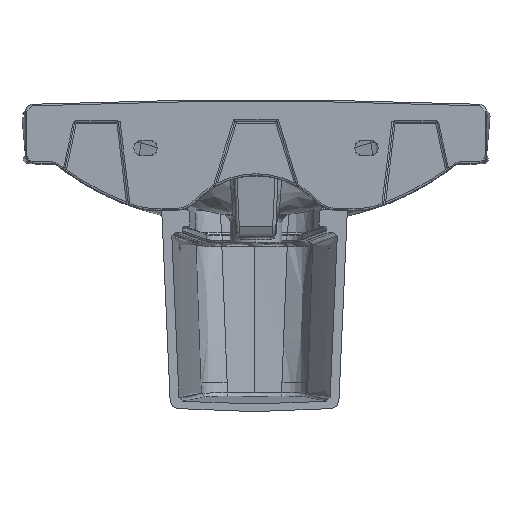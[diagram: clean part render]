
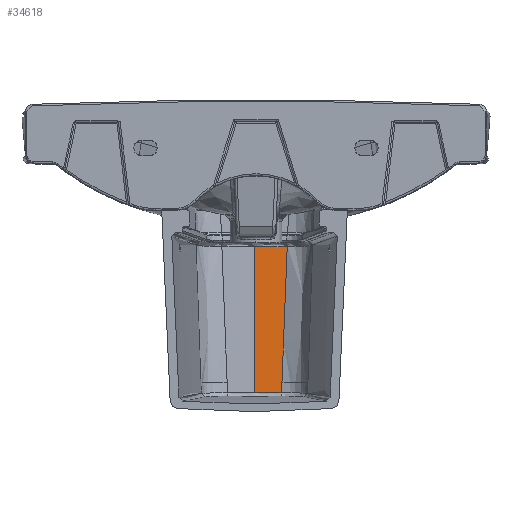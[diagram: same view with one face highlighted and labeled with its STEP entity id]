
A CAD part, top view. The second image highlights one B-rep face of the part: STEP entity #34618.
In plain terms, the highlighted free-form (B-spline) face has degree [1, 3] with [5, 7] control points.
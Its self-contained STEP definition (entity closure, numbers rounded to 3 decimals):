
#42 = VERTEX_POINT ( 'NONE', #46855 ) ;
#1252 = CARTESIAN_POINT ( 'NONE',  ( -81.489, 34.313, -6.444 ) ) ;
#2137 = CARTESIAN_POINT ( 'NONE',  ( -86.906, -105.45, 3.724 ) ) ;
#3769 = ORIENTED_EDGE ( 'NONE', *, *, #18600, .T. ) ;
#6049 = CARTESIAN_POINT ( 'NONE',  ( -123.666, -150.381, 628.788 ) ) ;
#7451 = CARTESIAN_POINT ( 'NONE',  ( -81.489, 34.313, -6.444 ) ) ;
#9210 = CARTESIAN_POINT ( 'NONE',  ( -86.205, -87.496, 2.415 ) ) ;
#11426 = EDGE_CURVE ( 'NONE', #87539, #19438, #66110, .T. ) ;
#12395 = CARTESIAN_POINT ( 'NONE',  ( -123.666, -117.444, 628.788 ) ) ;
#12918 = FACE_OUTER_BOUND ( 'NONE', #83662, .T. ) ;
#14442 = CARTESIAN_POINT ( 'NONE',  ( -123.666, 96.618, -13.807 ) ) ;
#15511 = CARTESIAN_POINT ( 'NONE',  ( -84.649, -47.36, -0.512 ) ) ;
#16525 = ORIENTED_EDGE ( 'NONE', *, *, #83683, .T. ) ;
#18144 = CARTESIAN_POINT ( 'NONE',  ( -123.666, -154.715, 5.532 ) ) ;
#18600 = EDGE_CURVE ( 'NONE', #42, #87539, #75942, .T. ) ;
#18686 = CARTESIAN_POINT ( 'NONE',  ( -97.808, -154.681, 6.506 ) ) ;
#19438 = VERTEX_POINT ( 'NONE', #21116 ) ;
#20249 = CARTESIAN_POINT ( 'NONE',  ( 548.341, 121.304, 628.788 ) ) ;
#20771 = CARTESIAN_POINT ( 'NONE',  ( -123.666, -117.444, 628.788 ) ) ;
#21116 = CARTESIAN_POINT ( 'NONE',  ( -88.809, -154.654, 7.321 ) ) ;
#21288 = CARTESIAN_POINT ( 'NONE',  ( 526.543, -174.266, 7.037 ) ) ;
#21964 = VERTEX_POINT ( 'NONE', #82292 ) ;
#22305 = CARTESIAN_POINT ( 'NONE',  ( -795.114, 89.685, -13.273 ) ) ;
#26041 = CARTESIAN_POINT ( 'NONE',  ( -109.296, -154.706, 5.785 ) ) ;
#27594 = CARTESIAN_POINT ( 'NONE',  ( -100.504, -154.688, 6.308 ) ) ;
#29163 = CARTESIAN_POINT ( 'NONE',  ( -123.666, 82.886, -12.75 ) ) ;
#29665 = CARTESIAN_POINT ( 'NONE',  ( -773.875, -174.266, 7.037 ) ) ;
#30177 = CARTESIAN_POINT ( 'NONE',  ( -776.517, -117.444, 628.788 ) ) ;
#34618 = ADVANCED_FACE ( 'NONE', ( #12918 ), #53801, .F. ) ;
#35598 = ORIENTED_EDGE ( 'NONE', *, *, #46739, .T. ) ;
#36503 = CARTESIAN_POINT ( 'NONE',  ( -123.666, -141.427, 4.51 ) ) ;
#37372 = VERTEX_POINT ( 'NONE', #1252 ) ;
#37528 = CARTESIAN_POINT ( 'NONE',  ( 529.186, -141.427, 4.51 ) ) ;
#38271 = B_SPLINE_CURVE_WITH_KNOTS ( 'NONE', 3,
 ( #52143, #99751, #65779, #51630 ),
 .UNSPECIFIED., .F., .F.,
 ( 4, 4 ),
 ( 0., 1. ),
 .UNSPECIFIED. ) ;
#38393 = CARTESIAN_POINT ( 'NONE',  ( -109.616, 34.199, -8.791 ) ) ;
#39425 = CARTESIAN_POINT ( 'NONE',  ( -116.659, 34.189, -9.003 ) ) ;
#42232 = CARTESIAN_POINT ( 'NONE',  ( -123.666, -141.427, 4.51 ) ) ;
#44339 = CARTESIAN_POINT ( 'NONE',  ( -92.922, -154.667, 6.914 ) ) ;
#44353 = CARTESIAN_POINT ( 'NONE',  ( -794.567, 107.531, 628.788 ) ) ;
#45886 = CARTESIAN_POINT ( 'NONE',  ( -795.672, 96.618, -13.807 ) ) ;
#46399 = CARTESIAN_POINT ( 'NONE',  ( 529.186, -117.444, 628.788 ) ) ;
#46739 = EDGE_CURVE ( 'NONE', #37372, #42, #69658, .T. ) ;
#46855 = CARTESIAN_POINT ( 'NONE',  ( -123.666, 34.189, -9.003 ) ) ;
#47136 = CARTESIAN_POINT ( 'NONE',  ( -123.666, -154.715, 5.532 ) ) ;
#47285 = CARTESIAN_POINT ( 'NONE',  ( -95.532, 34.241, -7.939 ) ) ;
#50858 = CARTESIAN_POINT ( 'NONE',  ( -86.205, -87.496, 2.415 ) ) ;
#51630 = CARTESIAN_POINT ( 'NONE',  ( -88.294, -141.356, 6.348 ) ) ;
#52143 = CARTESIAN_POINT ( 'NONE',  ( -88.809, -154.654, 7.321 ) ) ;
#52213 = CARTESIAN_POINT ( 'NONE',  ( -123.666, 114.35, 628.788 ) ) ;
#52735 = CARTESIAN_POINT ( 'NONE',  ( 548.341, 96.618, -13.807 ) ) ;
#53253 = CARTESIAN_POINT ( 'NONE',  ( 547.236, 82.886, -12.75 ) ) ;
#53755 = CARTESIAN_POINT ( 'NONE',  ( -123.666, 114.35, 628.788 ) ) ;
#53801 =( BOUNDED_SURFACE ( )  B_SPLINE_SURFACE ( 1, 3, ( 
 ( #77813, #20249, #52735, #14442, #45886, #68957, #93519 ),
 ( #53755, #101885, #60074, #100864, #22305, #69966, #52213 ),
 ( #67920, #84126, #53253, #29163, #93011, #44353, #62119 ),
 ( #12395, #46399, #37528, #36503, #92501, #30177, #20771 ),
 ( #6049, #69466, #21288, #101374, #29665, #76290, #68441 ) ),
 .UNSPECIFIED., .F., .T., .T. ) 
 B_SPLINE_SURFACE_WITH_KNOTS ( ( 2, 1, 1, 1, 2 ),
 ( 4, 3, 4 ),
 ( -0.061, -0.03, 0., 1., 1.146 ),
 ( 0., 0.5, 1. ),
 .UNSPECIFIED. ) 
 GEOMETRIC_REPRESENTATION_ITEM ( )  RATIONAL_B_SPLINE_SURFACE ( (
 ( 1., 0.333, 0.333, 1., 0.333, 0.333, 1.),
 ( 1., 0.333, 0.333, 1., 0.333, 0.333, 1.),
 ( 1., 0.333, 0.333, 1., 0.333, 0.333, 1.),
 ( 1., 0.333, 0.333, 1., 0.333, 0.333, 1.),
 ( 1., 0.333, 0.333, 1., 0.333, 0.333, 1.) ) ) 
 REPRESENTATION_ITEM ( '' )  SURFACE ( )  );
#55148 = CARTESIAN_POINT ( 'NONE',  ( -123.666, 34.189, -9.003 ) ) ;
#55338 = CARTESIAN_POINT ( 'NONE',  ( -81.489, 34.313, -6.444 ) ) ;
#60074 = CARTESIAN_POINT ( 'NONE',  ( 547.783, 89.685, -13.273 ) ) ;
#62119 = CARTESIAN_POINT ( 'NONE',  ( -123.666, 107.531, 628.788 ) ) ;
#64542 = CARTESIAN_POINT ( 'NONE',  ( -88.491, 34.272, -7.297 ) ) ;
#65779 = CARTESIAN_POINT ( 'NONE',  ( -88.5, -146.706, 6.739 ) ) ;
#65805 = CARTESIAN_POINT ( 'NONE',  ( -123.666, 34.189, -9.003 ) ) ;
#66110 = B_SPLINE_CURVE_WITH_KNOTS ( 'NONE', 3,
 ( #95660, #91454, #26041, #27594, #18686, #44339, #98265, #91966 ),
 .UNSPECIFIED., .F., .F.,
 ( 4, 2, 2, 4 ),
 ( 0., 0.5, 0.75, 1. ),
 .UNSPECIFIED. ) ;
#67920 = CARTESIAN_POINT ( 'NONE',  ( -123.666, 107.531, 628.788 ) ) ;
#68353 = B_SPLINE_CURVE_WITH_KNOTS ( 'NONE', 3,
 ( #9210, #15511, #72072, #55338 ),
 .UNSPECIFIED., .F., .F.,
 ( 4, 4 ),
 ( 0., 1. ),
 .UNSPECIFIED. ) ;
#68441 = CARTESIAN_POINT ( 'NONE',  ( -123.666, -150.381, 628.788 ) ) ;
#68957 = CARTESIAN_POINT ( 'NONE',  ( -795.672, 121.304, 628.788 ) ) ;
#69466 = CARTESIAN_POINT ( 'NONE',  ( 526.543, -150.381, 628.788 ) ) ;
#69658 = B_SPLINE_CURVE_WITH_KNOTS ( 'NONE', 3,
 ( #7451, #64542, #47285, #38393, #39425, #55148 ),
 .UNSPECIFIED., .F., .F.,
 ( 4, 2, 4 ),
 ( 0., 0.5, 1. ),
 .UNSPECIFIED. ) ;
#69966 = CARTESIAN_POINT ( 'NONE',  ( -795.114, 114.35, 628.788 ) ) ;
#70328 = B_SPLINE_CURVE_WITH_KNOTS ( 'NONE', 3,
 ( #96922, #98990, #2137, #50858 ),
 .UNSPECIFIED., .F., .F.,
 ( 4, 4 ),
 ( 0., 1. ),
 .UNSPECIFIED. ) ;
#72072 = CARTESIAN_POINT ( 'NONE',  ( -83.077, -6.757, -3.466 ) ) ;
#73418 = EDGE_CURVE ( 'NONE', #21964, #37372, #68353, .T. ) ;
#73578 = EDGE_CURVE ( 'NONE', #19438, #100700, #38271, .T. ) ;
#75942 = B_SPLINE_CURVE_WITH_KNOTS ( 'NONE', 1,
 ( #65805, #42232, #18144 ),
 .UNSPECIFIED., .F., .F.,
 ( 2, 1, 2 ),
 ( 0.217, 1., 1.059 ),
 .UNSPECIFIED. ) ;
#76290 = CARTESIAN_POINT ( 'NONE',  ( -773.875, -150.381, 628.788 ) ) ;
#77813 = CARTESIAN_POINT ( 'NONE',  ( -123.666, 121.304, 628.788 ) ) ;
#82292 = CARTESIAN_POINT ( 'NONE',  ( -86.205, -87.496, 2.415 ) ) ;
#82713 = ORIENTED_EDGE ( 'NONE', *, *, #73578, .T. ) ;
#83662 = EDGE_LOOP ( 'NONE', ( #35598, #3769, #97379, #82713, #16525, #85372 ) ) ;
#83683 = EDGE_CURVE ( 'NONE', #100700, #21964, #70328, .T. ) ;
#84126 = CARTESIAN_POINT ( 'NONE',  ( 547.236, 107.531, 628.788 ) ) ;
#85372 = ORIENTED_EDGE ( 'NONE', *, *, #73418, .T. ) ;
#87539 = VERTEX_POINT ( 'NONE', #47136 ) ;
#91454 = CARTESIAN_POINT ( 'NONE',  ( -116.102, -154.715, 5.532 ) ) ;
#91966 = CARTESIAN_POINT ( 'NONE',  ( -88.809, -154.654, 7.321 ) ) ;
#92501 = CARTESIAN_POINT ( 'NONE',  ( -776.517, -141.427, 4.51 ) ) ;
#93011 = CARTESIAN_POINT ( 'NONE',  ( -794.567, 82.886, -12.75 ) ) ;
#93519 = CARTESIAN_POINT ( 'NONE',  ( -123.666, 121.304, 628.788 ) ) ;
#94429 = CARTESIAN_POINT ( 'NONE',  ( -88.294, -141.356, 6.348 ) ) ;
#95660 = CARTESIAN_POINT ( 'NONE',  ( -123.666, -154.715, 5.532 ) ) ;
#96922 = CARTESIAN_POINT ( 'NONE',  ( -88.294, -141.356, 6.348 ) ) ;
#97379 = ORIENTED_EDGE ( 'NONE', *, *, #11426, .T. ) ;
#98265 = CARTESIAN_POINT ( 'NONE',  ( -90.732, -154.661, 7.123 ) ) ;
#98990 = CARTESIAN_POINT ( 'NONE',  ( -87.603, -123.403, 5.035 ) ) ;
#99751 = CARTESIAN_POINT ( 'NONE',  ( -88.672, -151.139, 7.063 ) ) ;
#100700 = VERTEX_POINT ( 'NONE', #94429 ) ;
#100864 = CARTESIAN_POINT ( 'NONE',  ( -123.666, 89.685, -13.273 ) ) ;
#101374 = CARTESIAN_POINT ( 'NONE',  ( -123.666, -174.266, 7.037 ) ) ;
#101885 = CARTESIAN_POINT ( 'NONE',  ( 547.783, 114.35, 628.788 ) ) ;
